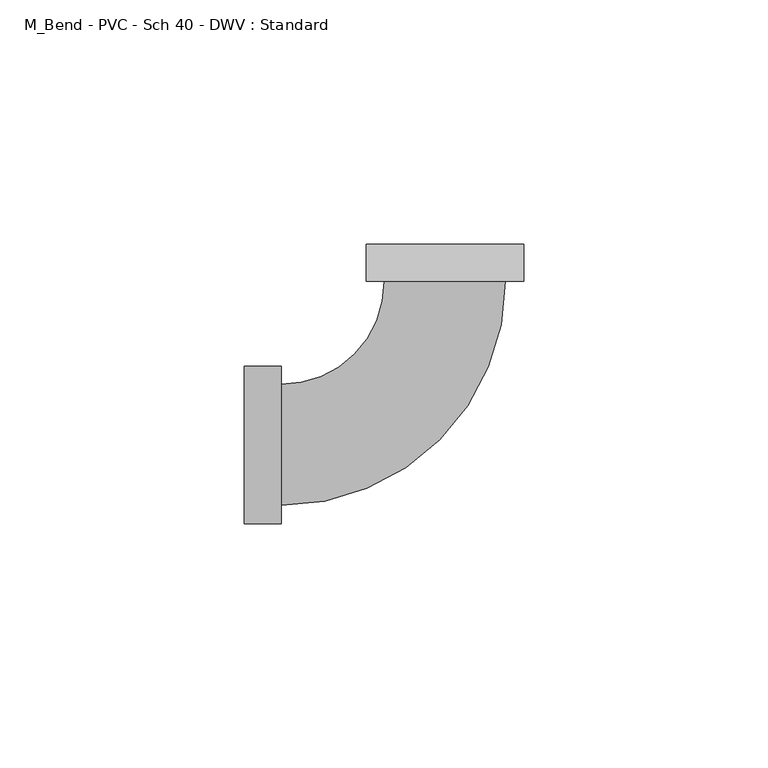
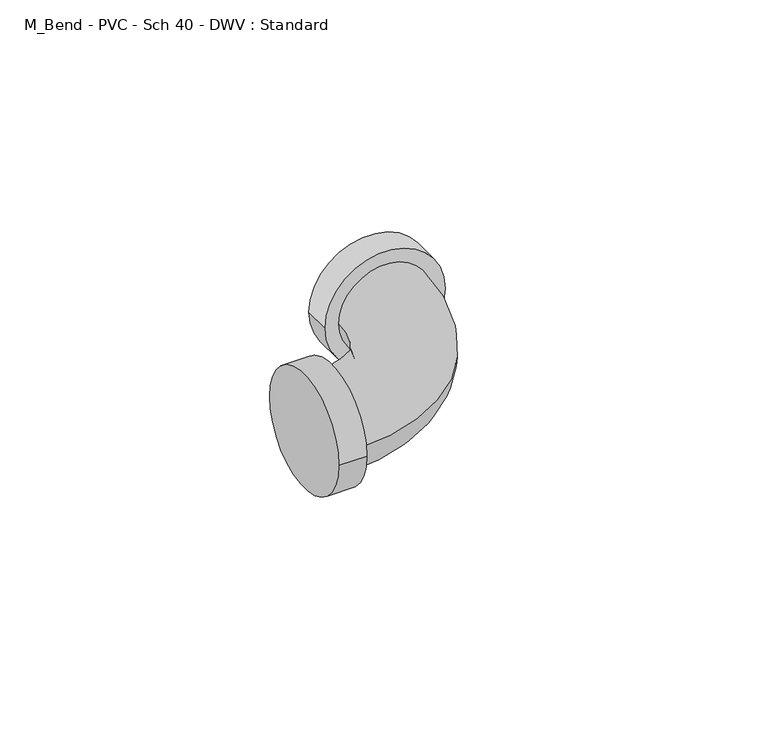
"""IFC4 building model written with IfcOpenShell, lengths in millimetres: pipe fitting geometry, M_Bend - PVC - Sch 40 - DWV : Standard."""

from ifc_helpers import new_model, si_unit, point, frame, origin, place, context, project, spatial, circle_curve, ellipse_curve, trimmed, source, transform, mapped, element, save
from ifc_brep_helpers import plane_surface, cylinder_surface, revolved_surface, advanced_brep


def m_bend_pvc_sch_40_dwv_standard_42e46e6b(model_context):
    return source(origin(), model_context, "Body", "AdvancedBrep", [
        advanced_brep(
        [(-41.0140625, -16.0871094, 0.0), (-41.0140625, 16.0871094, 0.0), (-33.5140625, -16.0871094, 0.0), (-33.5140625, 16.0871094, 0.0), (-33.5140625, -12.3640625, 0.0), (-33.5140625, 12.3640625, 0.0), (-12.3640625, 33.5140625, 0.0), (12.3640625, 33.5140625, 0.0), (16.0871094, 33.5140625, 0.0), (-16.0871094, 33.5140625, 0.0), (16.0871094, 41.0140625, 0.0), (-16.0871094, 41.0140625, 0.0)],
        [
            (0, 1, circle_curve(frame((-41.0140625, 0.0, 0.0), z_axis=(-1.0, 0.0, 0.0), x_axis=(0.0, 1.0, 0.0)), 16.0871094)),
            (1, 0, circle_curve(frame((-41.0140625, 0.0, 0.0), z_axis=(-1.0, 0.0, 0.0), x_axis=(0.0, 1.0, 0.0)), 16.0871094)),
            (2, 3, circle_curve(frame((-33.5140625, 0.0, 0.0), z_axis=(1.0, 0.0, 0.0), x_axis=(0.0, 1.0, 0.0)), 16.0871094)),
            (3, 2, circle_curve(frame((-33.5140625, 0.0, 0.0), z_axis=(1.0, 0.0, 0.0), x_axis=(0.0, 1.0, 0.0)), 16.0871094)),
            (4, 5, circle_curve(frame((-33.5140625, 0.0, 0.0), z_axis=(-1.0, 0.0, 0.0), x_axis=(0.0, 1.0, 0.0)), 12.3640625)),
            (5, 4, circle_curve(frame((-33.5140625, 0.0, 0.0), z_axis=(-1.0, 0.0, 0.0), x_axis=(0.0, 1.0, 0.0)), 12.3640625)),
            (0, 2),
            (3, 1),
            (6, 5, circle_curve(frame((-33.5140625, 33.5140625, 0.0), z_axis=(0.0, 0.0, -1.0), x_axis=(0.0, -1.0, 0.0)), 21.15)),
            (4, 7, circle_curve(frame((-33.5140625, 33.5140625, 0.0), z_axis=(0.0, 0.0, 1.0), x_axis=(0.0, -1.0, 0.0)), 45.878125)),
            (7, 6, circle_curve(frame((0.0, 33.5140625, 0.0), z_axis=(0.0, -1.0, 0.0), x_axis=(-1.0, 0.0, 0.0)), 12.3640625)),
            (6, 7, circle_curve(frame((0.0, 33.5140625, 0.0), z_axis=(0.0, -1.0, 0.0), x_axis=(-1.0, 0.0, 0.0)), 12.3640625)),
            (8, 9, circle_curve(frame((0.0, 33.5140625, 0.0), z_axis=(0.0, -1.0, 0.0), x_axis=(-1.0, 0.0, 0.0)), 16.0871094)),
            (9, 8, circle_curve(frame((0.0, 33.5140625, 0.0), z_axis=(0.0, -1.0, 0.0), x_axis=(-1.0, 0.0, 0.0)), 16.0871094)),
            (10, 11, circle_curve(frame((0.0, 41.0140625, 0.0), z_axis=(0.0, 1.0, 0.0), x_axis=(-1.0, 0.0, 0.0)), 16.0871094)),
            (11, 10, circle_curve(frame((0.0, 41.0140625, 0.0), z_axis=(0.0, 1.0, 0.0), x_axis=(-1.0, 0.0, 0.0)), 16.0871094)),
            (8, 10),
            (11, 9),
        ],
        [
            plane_surface(frame((-41.0140625, 0.0, 0.0), z_axis=(-1.0, 0.0, 0.0), x_axis=(0.0, 0.0, 1.0))),
            plane_surface(frame((-33.5140625, 0.0, 0.0), z_axis=(1.0, 0.0, 0.0), x_axis=(0.0, 0.0, 1.0))),
            cylinder_surface(frame((-41.0140625, 0.0, 0.0), z_axis=(-1.0, 0.0, 0.0), x_axis=(0.0, 1.0, 0.0)), 16.0871094),
            revolved_surface(trimmed(ellipse_curve(frame((-33.5140625, 0.0, 0.0), z_axis=(-1.0, 0.0, 0.0), x_axis=(0.0, 1.0, 0.0)), 12.3640625, 12.3640625), [point((-33.5140625, -12.3640625, 0.0))], [point((-33.5140625, 12.3640625, 0.0))], True, "CARTESIAN"), (-33.5140625, 33.5140625, 0.0), (0.0, 0.0, 1.0)),
            revolved_surface(trimmed(ellipse_curve(frame((-33.5140625, 0.0, 0.0), z_axis=(-1.0, 0.0, 0.0), x_axis=(0.0, 1.0, 0.0)), 12.3640625, 12.3640625), [point((-33.5140625, 12.3640625, 0.0))], [point((-33.5140625, -12.3640625, 0.0))], True, "CARTESIAN"), (-33.5140625, 33.5140625, 0.0), (0.0, 0.0, 1.0)),
            plane_surface(frame((0.0, 33.5140625, 0.0), z_axis=(0.0, -1.0, 0.0), x_axis=(0.0, 0.0, 1.0))),
            plane_surface(frame((0.0, 41.0140625, 0.0), z_axis=(0.0, 1.0, 0.0), x_axis=(0.0, 0.0, 1.0))),
            cylinder_surface(frame((0.0, 33.5140625, 0.0), z_axis=(0.0, -1.0, 0.0), x_axis=(-1.0, 0.0, 0.0)), 16.0871094),
        ],
        [
            (0, [[1, 2]]),
            (1, [[3, 4], [5, 6]]),
            (2, [[-1, 7, -4, 8]]),
            (2, [[-2, -8, -3, -7]]),
            (3, [[9, -5, 10, 11]]),
            (4, [[-9, 12, -10, -6]]),
            (5, [[13, 14], [-11, -12]]),
            (6, [[15, 16]]),
            (7, [[-13, 17, -16, 18]]),
            (7, [[-14, -18, -15, -17]]),
        ],
    ),
    ])


if __name__ == "__main__":
    model = new_model("IFC4")
    model_context = context("Model", 3, world=origin())
    ifc_project = project(units=[si_unit("LENGTHUNIT", "METRE", prefix="MILLI")], contexts=[model_context])
    site = spatial("IfcSite", under=ifc_project)
    building = spatial("IfcBuilding", under=site)
    placement = place(None, origin())
    m_bend_pvc_sch_40_dwv_standard_shape = m_bend_pvc_sch_40_dwv_standard_42e46e6b(model_context)
    element("IfcPipeFitting", 1, ObjectType="M_Bend - PVC - Sch 40 - DWV : Standard", at=placement, inside=building, context=model_context, shape_type="MappedRepresentation", body=[
        mapped(m_bend_pvc_sch_40_dwv_standard_shape, transform((0.0, 0.0, 0.0), x_axis=(1.0, 0.0, 0.0), y_axis=(0.0, 1.0, 0.0), z_axis=(0.0, 0.0, 1.0))),
    ])
    save(model, "model.ifc")
